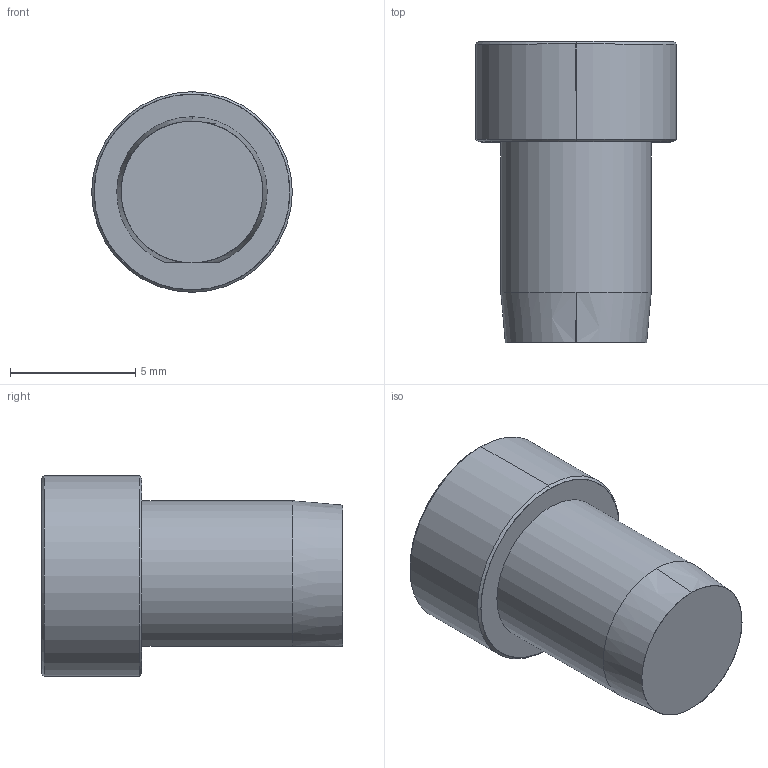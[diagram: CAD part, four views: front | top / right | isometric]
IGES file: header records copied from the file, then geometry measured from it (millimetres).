
Start section: SolidWorks IGES FILE using analytic representation for surfaces
Global section: file name: E:\MOJIDOK2006\projekti2006\3D-RE-RM-izdelki\RMH.IGS; native system: SolidWorks 99 by SolidWorks Corporation; preprocessor: Version 3.0; author: cerar; date: 1060905.151808; units: millimetre
Bounding box: 8 x 12.01 x 8 mm (x, y, z)
Surface area: 345.2 mm2 (no closed solid volume)
Topology: 0 solids, 0 shells, 21 faces, 273 edges, 272 vertices
Faces by surface type: revolution 11, bspline 10
